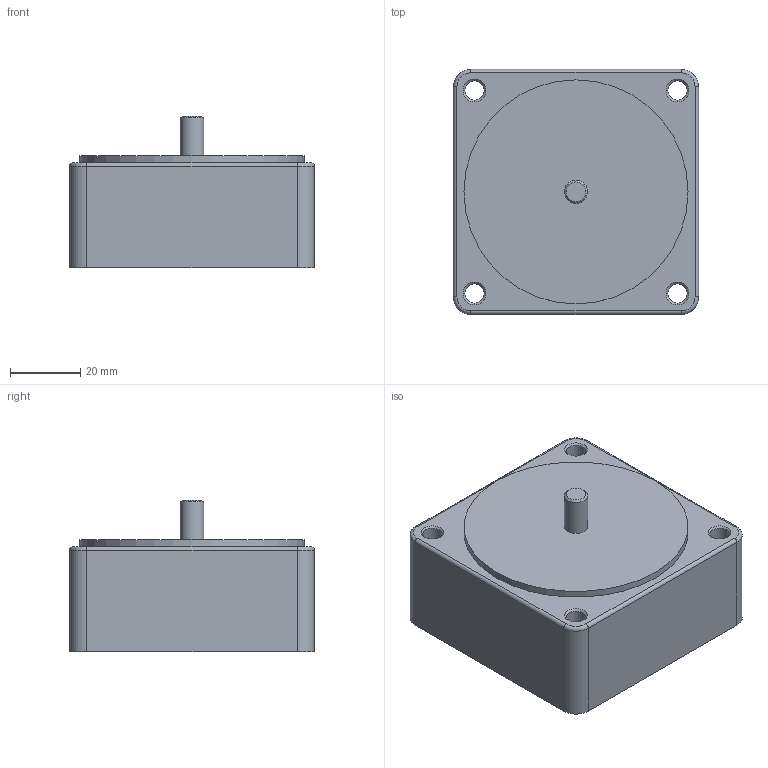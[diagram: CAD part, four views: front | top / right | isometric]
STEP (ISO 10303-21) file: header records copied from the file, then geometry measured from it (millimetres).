
FILE_DESCRIPTION((''),'2;1');
FILE_NAME('D:\작업\흐힠~\3D 모델링\S7GX10B.stp','2013-11-27T16:03:19',('jy-jung'),(''),'Autodesk Inventor 2011','Autodesk Inventor 2011','');
FILE_SCHEMA(('AUTOMOTIVE_DESIGN { 1 0 10303 214 1 1 1 1 }'));
Length unit declared in the file: millimetre
Products named in the file (1): 부품70
Bounding box: 70 x 70 x 43.4 mm (x, y, z)
Volume: 136746.5 mm3; surface area: 21412.6 mm2
Topology: 1 solids, 1 shells, 35 faces, 74 edges, 45 vertices
Faces by surface type: cylinder 16, plane 10, cone 5, torus 4
Full cylindrical faces by diameter (mm): 5.5 x4, 6.67 x1, 8 x1, 64 x2
Entity records: 922 total; most frequent: DIRECTION 174, CARTESIAN_POINT 142, ORIENTED_EDGE 122, AXIS2_PLACEMENT_3D 77, EDGE_CURVE 61, EDGE_LOOP 60, VERTEX_POINT 45, CIRCLE 41
